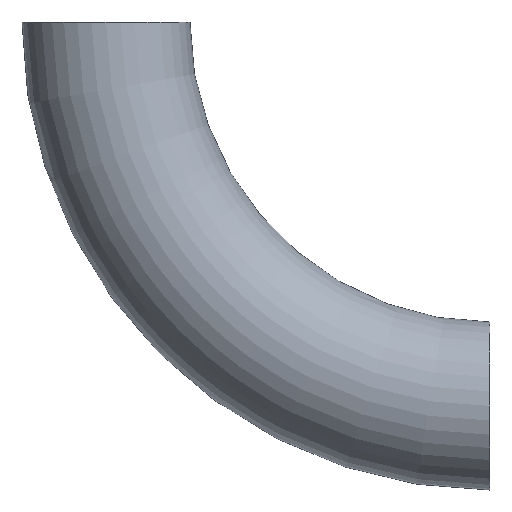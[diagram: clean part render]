
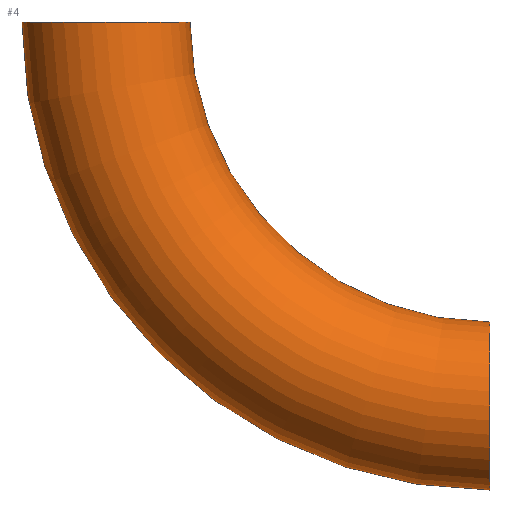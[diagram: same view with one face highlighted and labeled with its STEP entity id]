
A CAD part, front view. The second image highlights one B-rep face of the part: STEP entity #4.
In plain terms, the highlighted toroidal (fillet/blend) face has major radius 160 mm and minor radius 35 mm.
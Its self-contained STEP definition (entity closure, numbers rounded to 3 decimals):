
#2 = EDGE_CURVE ( 'NONE', #193, #69, #98, .T. ) ;
#4 = ADVANCED_FACE ( 'NONE', ( #31 ), #129, .T. ) ;
#9 = CARTESIAN_POINT ( 'NONE',  ( 0., 0., -160. ) ) ;
#13 = DIRECTION ( 'NONE',  ( 1., 0., 0. ) ) ;
#18 = DIRECTION ( 'NONE',  ( 0., 0., 1. ) ) ;
#26 = ORIENTED_EDGE ( 'NONE', *, *, #211, .F. ) ;
#29 = DIRECTION ( 'NONE',  ( 0., 1., 0. ) ) ;
#31 = FACE_OUTER_BOUND ( 'NONE', #90, .T. ) ;
#35 = CARTESIAN_POINT ( 'NONE',  ( 0., 0., 0. ) ) ;
#36 = AXIS2_PLACEMENT_3D ( 'NONE', #68, #158, #13 ) ;
#44 = CIRCLE ( 'NONE', #36, 35. ) ;
#48 = DIRECTION ( 'NONE',  ( 0., 0., 1. ) ) ;
#50 = ORIENTED_EDGE ( 'NONE', *, *, #2, .T. ) ;
#52 = CIRCLE ( 'NONE', #253, 35. ) ;
#53 = CARTESIAN_POINT ( 'NONE',  ( 0., 0., 0. ) ) ;
#57 = VERTEX_POINT ( 'NONE', #182 ) ;
#62 = ORIENTED_EDGE ( 'NONE', *, *, #111, .T. ) ;
#68 = CARTESIAN_POINT ( 'NONE',  ( -160., 0., 0. ) ) ;
#69 = VERTEX_POINT ( 'NONE', #86 ) ;
#82 = CIRCLE ( 'NONE', #154, 195. ) ;
#86 = CARTESIAN_POINT ( 'NONE',  ( -125., 0., 0. ) ) ;
#90 = EDGE_LOOP ( 'NONE', ( #159, #62, #50, #26 ) ) ;
#98 = CIRCLE ( 'NONE', #241, 125. ) ;
#105 = DIRECTION ( 'NONE',  ( 0., 0., 1. ) ) ;
#111 = EDGE_CURVE ( 'NONE', #57, #193, #52, .T. ) ;
#120 = DIRECTION ( 'NONE',  ( 0., 1., 0. ) ) ;
#126 = CARTESIAN_POINT ( 'NONE',  ( 0., 0., 0. ) ) ;
#129 = TOROIDAL_SURFACE ( 'NONE', #134, 160., 35. ) ;
#134 = AXIS2_PLACEMENT_3D ( 'NONE', #126, #120, #105 ) ;
#139 = DIRECTION ( 'NONE',  ( 0., 1., 0. ) ) ;
#154 = AXIS2_PLACEMENT_3D ( 'NONE', #53, #139, #18 ) ;
#158 = DIRECTION ( 'NONE',  ( 0., 0., 1. ) ) ;
#159 = ORIENTED_EDGE ( 'NONE', *, *, #178, .F. ) ;
#178 = EDGE_CURVE ( 'NONE', #57, #245, #82, .T. ) ;
#182 = CARTESIAN_POINT ( 'NONE',  ( 0., 0., -195. ) ) ;
#188 = CARTESIAN_POINT ( 'NONE',  ( 0., 0., -125. ) ) ;
#193 = VERTEX_POINT ( 'NONE', #188 ) ;
#211 = EDGE_CURVE ( 'NONE', #245, #69, #44, .T. ) ;
#219 = DIRECTION ( 'NONE',  ( 0., 0., 1. ) ) ;
#221 = DIRECTION ( 'NONE',  ( -1., 0., 0. ) ) ;
#229 = CARTESIAN_POINT ( 'NONE',  ( -195., 0., 0. ) ) ;
#241 = AXIS2_PLACEMENT_3D ( 'NONE', #35, #29, #219 ) ;
#245 = VERTEX_POINT ( 'NONE', #229 ) ;
#253 = AXIS2_PLACEMENT_3D ( 'NONE', #9, #221, #48 ) ;
